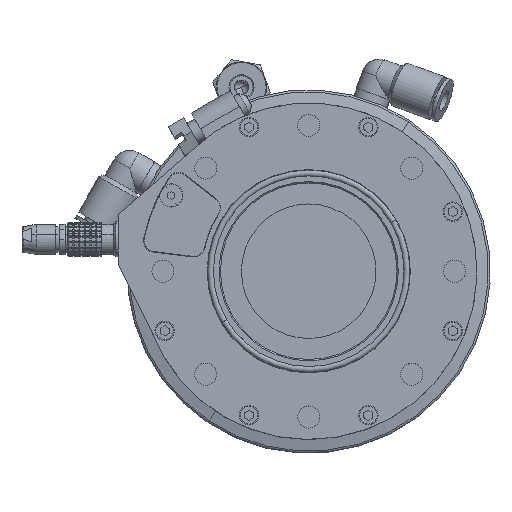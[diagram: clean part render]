
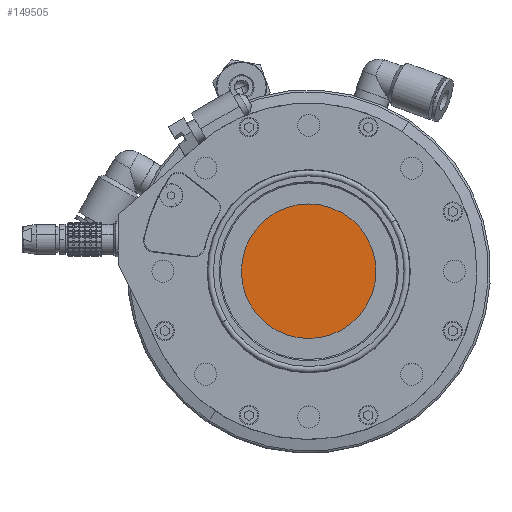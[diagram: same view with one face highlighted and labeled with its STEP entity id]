
A CAD part, top view. The second image highlights one B-rep face of the part: STEP entity #149505.
In plain terms, the highlighted planar face has unit normal (0, 0, 1).
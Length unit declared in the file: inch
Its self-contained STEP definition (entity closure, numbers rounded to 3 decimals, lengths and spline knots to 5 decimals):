
#768 = DIRECTION ( 'NONE',  ( 0., 0., 1. ) ) ;
#2542 = CARTESIAN_POINT ( 'NONE',  ( -0.00048, -1.875, 0.00873 ) ) ;
#37191 = VERTEX_POINT ( 'NONE', #149382 ) ;
#40828 = DIRECTION ( 'NONE',  ( 0., 0., 1. ) ) ;
#41885 = CARTESIAN_POINT ( 'NONE',  ( 0., 0., 0.00873 ) ) ;
#50938 = ORIENTED_EDGE ( 'NONE', *, *, #54414, .T. ) ;
#54414 = EDGE_CURVE ( 'Defeatured_1971+Defeatured_1970+Defeatured_1970+Defeatured_1970', #37191, #134154, #95706, .T. ) ;
#55823 = PLANE ( 'NONE',  #115842 ) ;
#56247 = DIRECTION ( 'NONE',  ( 0., 0., 1. ) ) ;
#56853 = CARTESIAN_POINT ( 'NONE',  ( 0., 0., 0.00873 ) ) ;
#58237 = EDGE_LOOP ( 'NONE', ( #89991, #50938 ) ) ;
#66932 = CIRCLE ( 'NONE', #99305, 1.875 ) ;
#89991 = ORIENTED_EDGE ( 'NONE', *, *, #109126, .T. ) ;
#95706 = CIRCLE ( 'NONE', #152138, 1.875 ) ;
#96845 = DIRECTION ( 'NONE',  ( 0., 1., 0. ) ) ;
#99305 = AXIS2_PLACEMENT_3D ( 'NONE', #41885, #768, #128465 ) ;
#109126 = EDGE_CURVE ( 'Defeatured_1971+Defeatured_1970+Defeatured_1970+Defeatured_1970', #134154, #37191, #66932, .T. ) ;
#115842 = AXIS2_PLACEMENT_3D ( 'NONE', #151669, #40828, #96845 ) ;
#125021 = DIRECTION ( 'NONE',  ( 0., 1., 0. ) ) ;
#128465 = DIRECTION ( 'NONE',  ( 0., 1., 0. ) ) ;
#134154 = VERTEX_POINT ( 'NONE', #2542 ) ;
#140692 = FACE_OUTER_BOUND ( 'NONE', #58237, .T. ) ;
#149382 = CARTESIAN_POINT ( 'NONE',  ( 0.00048, 1.875, 0.00873 ) ) ;
#149505 = ADVANCED_FACE ( 'Defeatured_1971', ( #140692 ), #55823, .T. ) ;
#151669 = CARTESIAN_POINT ( 'NONE',  ( 0., 0., 0.00873 ) ) ;
#152138 = AXIS2_PLACEMENT_3D ( 'NONE', #56853, #56247, #125021 ) ;
